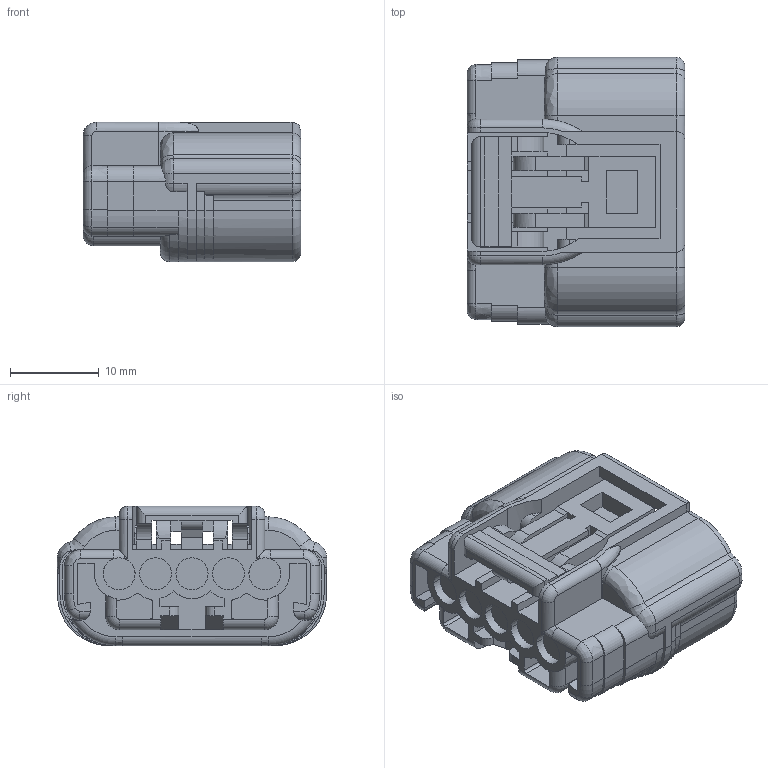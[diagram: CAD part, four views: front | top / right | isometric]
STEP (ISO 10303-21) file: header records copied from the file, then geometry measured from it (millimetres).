
FILE_DESCRIPTION(('CATIA V5 STEP Exchange','CAx-IF Rec.Pracs.--- Model Styling and Organization---1.2---2011-12-15'),'2;1');
FILE_NAME('C:\Users\0100900093\Desktop\20150612_HV_HVG_簡易モデル\6189-6909.stp','2015-07-10T04:56:54+00:00',('none'),('none'),'CATIA Version 5-6 Release 2012 SP4 HF74','CATIA V5 STEP AP214','none');
FILE_SCHEMA(('AUTOMOTIVE_DESIGN { 1 0 10303 214 1 1 1 1 }'));
Length unit declared in the file: millimetre
Products named in the file (1): 6189-6909
Bounding box: 24.5 x 30.3 x 15.7 mm (x, y, z)
Volume: 6468.3 mm3; surface area: 5496.4 mm2
Topology: 1 solids, 1 shells, 380 faces, 1137 edges, 757 vertices
Faces by surface type: plane 202, cylinder 136, torus 24, bspline 16, sphere 2
Entity records: 13701 total; most frequent: CARTESIAN_POINT 3871, ORIENTED_EDGE 2270, DIRECTION 1662, EDGE_CURVE 1135, VERTEX_POINT 757, VECTOR 745, LINE 745, AXIS2_PLACEMENT_3D 611
